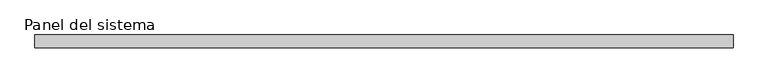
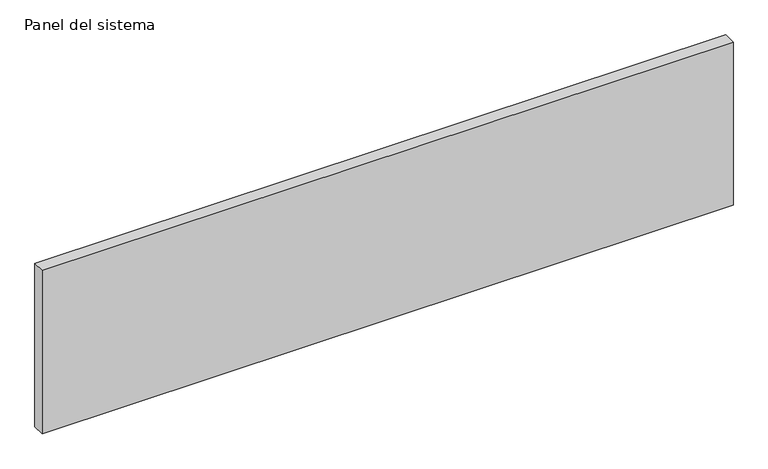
"""IFC4 building model written with IfcOpenShell, lengths in millimetres: plate geometry, Panel del sistema : Hiansa Panel - Fachada Panel LISO HFM Hor - 80mm."""

from ifc_helpers import new_model, si_unit, origin, origin_with_axes, place, context, project, spatial, polyline, outline, extrude, source, transform, mapped, element, save


def panel_del_sistema_6b5bd5af(model_context):
    return source(origin(), model_context, "Body", "SweptSolid", [
        extrude(outline(polyline([(2200.0, -80.0), (-2200.0, -80.0), (-2200.0, 0.0), (2200.0, 0.0), (2200.0, -80.0)])), origin_with_axes(), (0.0, 0.0, 1.0), 1100.0),
    ])


if __name__ == "__main__":
    model = new_model("IFC4")
    model_context = context("Model", 3, world=origin())
    ifc_project = project(units=[si_unit("LENGTHUNIT", "METRE", prefix="MILLI")], contexts=[model_context])
    site = spatial("IfcSite", under=ifc_project)
    building = spatial("IfcBuilding", under=site)
    placement = place(None, origin())
    panel_del_sistema_shape = panel_del_sistema_6b5bd5af(model_context)
    element("IfcPlate", 1, ObjectType="Panel del sistema : Hiansa Panel - Fachada Panel LISO HFM Hor - 80mm", at=placement, inside=building, context=model_context, shape_type="MappedRepresentation", body=[
        mapped(panel_del_sistema_shape, transform((0.0, 0.0, 0.0), x_axis=(1.0, 0.0, 0.0), y_axis=(0.0, 1.0, 0.0), z_axis=(0.0, 0.0, 1.0))),
    ])
    save(model, "model.ifc")
